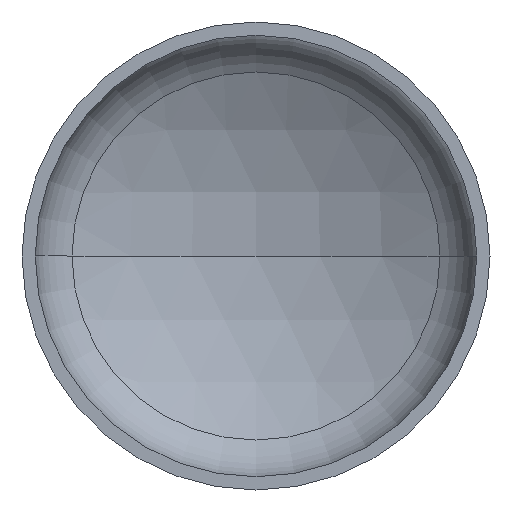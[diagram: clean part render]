
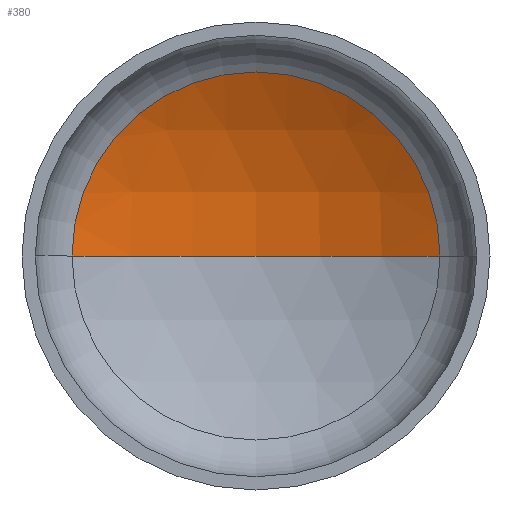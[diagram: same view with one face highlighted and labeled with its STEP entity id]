
A CAD part, front view. The second image highlights one B-rep face of the part: STEP entity #380.
In plain terms, the highlighted spherical face has radius 1920 mm.
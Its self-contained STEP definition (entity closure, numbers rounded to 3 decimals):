
#2 = AXIS2_PLACEMENT_3D ( 'NONE', #249, #112, #409 ) ;
#7 = VERTEX_POINT ( 'NONE', #359 ) ;
#10 = ORIENTED_EDGE ( 'NONE', *, *, #390, .T. ) ;
#12 = AXIS2_PLACEMENT_3D ( 'NONE', #289, #147, #245 ) ;
#27 = AXIS2_PLACEMENT_3D ( 'NONE', #241, #364, #161 ) ;
#34 = ORIENTED_EDGE ( 'NONE', *, *, #349, .T. ) ;
#44 = ORIENTED_EDGE ( 'NONE', *, *, #386, .F. ) ;
#57 = DIRECTION ( 'NONE',  ( 0., 0., -1. ) ) ;
#80 = VERTEX_POINT ( 'NONE', #279 ) ;
#91 = CARTESIAN_POINT ( 'NONE',  ( 0., -1229.761, 0. ) ) ;
#112 = DIRECTION ( 'NONE',  ( 0., 0., -1. ) ) ;
#147 = DIRECTION ( 'NONE',  ( 0., 0., 1. ) ) ;
#161 = DIRECTION ( 'NONE',  ( 1., 0., 0. ) ) ;
#165 = CARTESIAN_POINT ( 'NONE',  ( -943.897, 442.201, 0. ) ) ;
#182 = AXIS2_PLACEMENT_3D ( 'NONE', #91, #57, #288 ) ;
#195 = CIRCLE ( 'NONE', #12, 1920. ) ;
#203 = CIRCLE ( 'NONE', #182, 1920. ) ;
#204 = EDGE_LOOP ( 'NONE', ( #44, #10, #34 ) ) ;
#241 = CARTESIAN_POINT ( 'NONE',  ( 0., 442.201, 0. ) ) ;
#245 = DIRECTION ( 'NONE',  ( 1., 0., 0. ) ) ;
#249 = CARTESIAN_POINT ( 'NONE',  ( 0., -1229.761, 0. ) ) ;
#263 = SPHERICAL_SURFACE ( 'NONE', #2, 1920. ) ;
#277 = CIRCLE ( 'NONE', #27, 943.897 ) ;
#279 = CARTESIAN_POINT ( 'NONE',  ( 943.897, 442.201, 0. ) ) ;
#288 = DIRECTION ( 'NONE',  ( -1., 0., 0. ) ) ;
#289 = CARTESIAN_POINT ( 'NONE',  ( 0., -1229.761, 0. ) ) ;
#323 = FACE_OUTER_BOUND ( 'NONE', #204, .T. ) ;
#349 = EDGE_CURVE ( 'NONE', #80, #375, #277, .T. ) ;
#359 = CARTESIAN_POINT ( 'NONE',  ( 0., 690.239, 0. ) ) ;
#364 = DIRECTION ( 'NONE',  ( 0., -1., 0. ) ) ;
#375 = VERTEX_POINT ( 'NONE', #165 ) ;
#380 = ADVANCED_FACE ( 'NONE', ( #323 ), #263, .F. ) ;
#386 = EDGE_CURVE ( 'NONE', #7, #375, #195, .T. ) ;
#390 = EDGE_CURVE ( 'NONE', #7, #80, #203, .T. ) ;
#409 = DIRECTION ( 'NONE',  ( -1., 0., 0. ) ) ;
